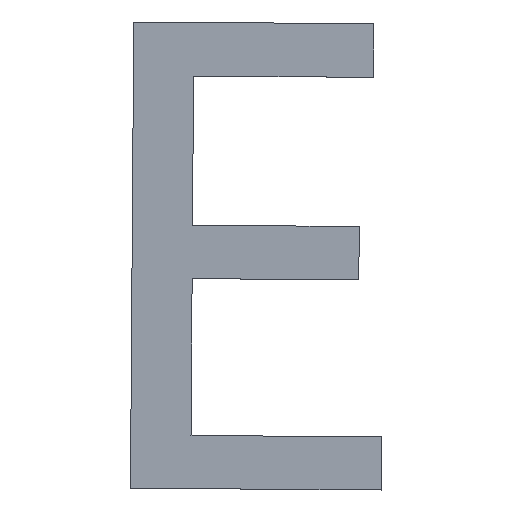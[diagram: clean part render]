
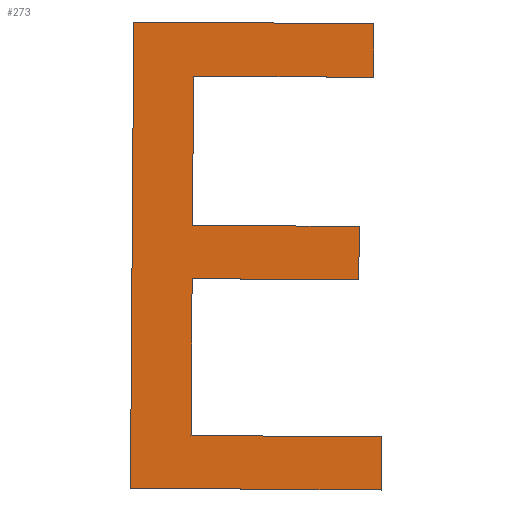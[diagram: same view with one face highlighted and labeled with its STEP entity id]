
A CAD part, top view. The second image highlights one B-rep face of the part: STEP entity #273.
In plain terms, the highlighted planar face has unit normal (0, 0, 1).
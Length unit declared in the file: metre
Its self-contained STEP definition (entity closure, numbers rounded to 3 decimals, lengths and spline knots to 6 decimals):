
#24=ORIENTED_EDGE('',*,*,#96,.T.);
#25=ORIENTED_EDGE('',*,*,#97,.T.);
#26=ORIENTED_EDGE('',*,*,#98,.T.);
#27=ORIENTED_EDGE('',*,*,#99,.T.);
#28=ORIENTED_EDGE('',*,*,#100,.T.);
#29=ORIENTED_EDGE('',*,*,#101,.T.);
#30=ORIENTED_EDGE('',*,*,#102,.T.);
#31=ORIENTED_EDGE('',*,*,#103,.T.);
#32=ORIENTED_EDGE('',*,*,#104,.T.);
#33=ORIENTED_EDGE('',*,*,#105,.T.);
#34=ORIENTED_EDGE('',*,*,#106,.T.);
#35=ORIENTED_EDGE('',*,*,#107,.T.);
#96=EDGE_CURVE('',#132,#133,#156,.T.);
#97=EDGE_CURVE('',#133,#134,#157,.T.);
#98=EDGE_CURVE('',#134,#135,#158,.T.);
#99=EDGE_CURVE('',#135,#136,#159,.T.);
#100=EDGE_CURVE('',#136,#137,#160,.T.);
#101=EDGE_CURVE('',#137,#138,#161,.T.);
#102=EDGE_CURVE('',#138,#139,#162,.T.);
#103=EDGE_CURVE('',#139,#140,#163,.T.);
#104=EDGE_CURVE('',#140,#141,#164,.T.);
#105=EDGE_CURVE('',#141,#142,#165,.T.);
#106=EDGE_CURVE('',#142,#143,#166,.T.);
#107=EDGE_CURVE('',#143,#132,#167,.T.);
#132=VERTEX_POINT('',#492);
#133=VERTEX_POINT('',#493);
#134=VERTEX_POINT('',#495);
#135=VERTEX_POINT('',#497);
#136=VERTEX_POINT('',#499);
#137=VERTEX_POINT('',#501);
#138=VERTEX_POINT('',#503);
#139=VERTEX_POINT('',#505);
#140=VERTEX_POINT('',#507);
#141=VERTEX_POINT('',#509);
#142=VERTEX_POINT('',#511);
#143=VERTEX_POINT('',#513);
#156=LINE('',#491,#192);
#157=LINE('',#494,#193);
#158=LINE('',#496,#194);
#159=LINE('',#498,#195);
#160=LINE('',#500,#196);
#161=LINE('',#502,#197);
#162=LINE('',#504,#198);
#163=LINE('',#506,#199);
#164=LINE('',#508,#200);
#165=LINE('',#510,#201);
#166=LINE('',#512,#202);
#167=LINE('',#514,#203);
#192=VECTOR('',#416,1.);
#193=VECTOR('',#417,1.);
#194=VECTOR('',#418,1.);
#195=VECTOR('',#419,1.);
#196=VECTOR('',#420,1.);
#197=VECTOR('',#421,1.);
#198=VECTOR('',#422,1.);
#199=VECTOR('',#423,1.);
#200=VECTOR('',#424,1.);
#201=VECTOR('',#425,1.);
#202=VECTOR('',#426,1.);
#203=VECTOR('',#427,1.);
#217=EDGE_LOOP('',(#24,#25,#26,#27,#28,#29,#30,#31,#32,#33,#34,#35));
#231=FACE_BOUND('',#217,.T.);
#245=PLANE('',#385);
#273=ADVANCED_FACE('',(#231),#245,.F.);
#385=AXIS2_PLACEMENT_3D('',#490,#414,#415);
#414=DIRECTION('',(0.,0.,-1.));
#415=DIRECTION('',(1.,0.,0.));
#416=DIRECTION('',(0.007,1.,0.));
#417=DIRECTION('',(-1.,0.007,0.));
#418=DIRECTION('',(0.007,1.,0.));
#419=DIRECTION('',(1.,-0.007,0.));
#420=DIRECTION('',(0.007,1.,0.));
#421=DIRECTION('',(-1.,0.007,0.));
#422=DIRECTION('',(0.007,1.,0.));
#423=DIRECTION('',(1.,-0.007,0.));
#424=DIRECTION('',(0.007,1.,0.));
#425=DIRECTION('',(-1.,0.007,0.));
#426=DIRECTION('',(-0.007,-1.,0.));
#427=DIRECTION('',(1.,-0.007,0.));
#490=CARTESIAN_POINT('',(-0.120184,-0.064652,0.011051));
#491=CARTESIAN_POINT('',(-0.120907,-0.065794,0.011051));
#492=CARTESIAN_POINT('',(-0.120907,-0.065807,0.011051));
#493=CARTESIAN_POINT('',(-0.120907,-0.065794,0.011051));
#494=CARTESIAN_POINT('',(-0.120957,-0.065793,0.011051));
#495=CARTESIAN_POINT('',(-0.120957,-0.065793,0.011051));
#496=CARTESIAN_POINT('',(-0.120956,-0.065752,0.011051));
#497=CARTESIAN_POINT('',(-0.120956,-0.065752,0.011051));
#498=CARTESIAN_POINT('',(-0.120913,-0.065752,0.011051));
#499=CARTESIAN_POINT('',(-0.120913,-0.065752,0.011051));
#500=CARTESIAN_POINT('',(-0.120912,-0.065738,0.011051));
#501=CARTESIAN_POINT('',(-0.120912,-0.065738,0.011051));
#502=CARTESIAN_POINT('',(-0.120956,-0.065738,0.011051));
#503=CARTESIAN_POINT('',(-0.120956,-0.065738,0.011051));
#504=CARTESIAN_POINT('',(-0.120956,-0.065699,0.011051));
#505=CARTESIAN_POINT('',(-0.120956,-0.065699,0.011051));
#506=CARTESIAN_POINT('',(-0.120909,-0.065699,0.011051));
#507=CARTESIAN_POINT('',(-0.120909,-0.065699,0.011051));
#508=CARTESIAN_POINT('',(-0.120909,-0.065685,0.011051));
#509=CARTESIAN_POINT('',(-0.120909,-0.065685,0.011051));
#510=CARTESIAN_POINT('',(-0.120971,-0.065685,0.011051));
#511=CARTESIAN_POINT('',(-0.120971,-0.065685,0.011051));
#512=CARTESIAN_POINT('',(-0.120972,-0.065807,0.011051));
#513=CARTESIAN_POINT('',(-0.120972,-0.065807,0.011051));
#514=CARTESIAN_POINT('',(-0.120907,-0.065807,0.011051));
